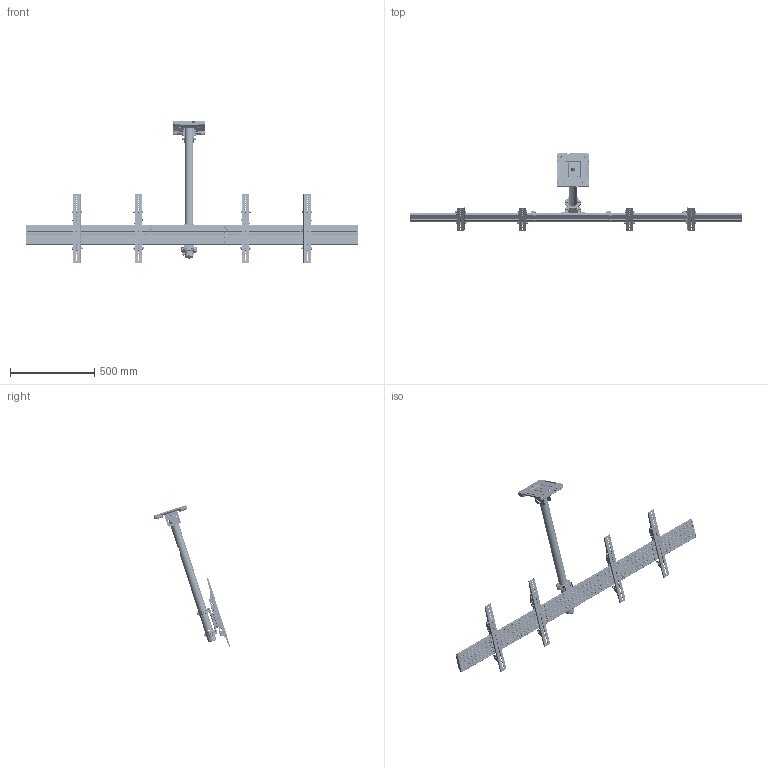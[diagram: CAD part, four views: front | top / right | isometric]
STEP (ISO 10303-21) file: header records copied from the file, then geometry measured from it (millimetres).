
FILE_DESCRIPTION (( 'STEP AP203' ), '1' );
FILE_NAME ('39662.STEP', '2019-07-27T07:14:58', ( '微软用户' ), ( 'Sky123.Org' ), 'SwSTEP 2.0', 'SolidWorks 2016', '' );
FILE_SCHEMA (( 'CONFIG_CONTROL_DESIGN' ));
Length unit declared in the file: millimetre
Products named in the file (53): 噩砃NEW酘境像郪璃; 噩砃M6-50; NEW酘境像郪璃; M6-50; 39662; HDХ啣郪璃; 筵寢傷裔; Х旋倰Х啣NEW - 2; 噩砃M6攝韓蹟譫; hexagon socket button head screws gb_GB_SOCKET_TYPE7 M8X12-N; M6攝韓蹟譫; T倰璃; 蕾奪; 嘐隅輸; 噩砃M6-15; 臏筵寢480; M6-15; 黑裔; 臏筵寢680; 蕾奪郪璃; 呿蹋傍杶2; 噩砃16-6.2-1.5; 滅聒蹟蹟佪; 16-6.2-1.5; 嘐隅郪璃 - 2; 囀鞠褒攫芛蹟佪M8-70; M8-25囀鞠褒埴翐芛; 噩砃400T____ ^T400 arm Kanto Version; 噩砃NEWT境像; 400T____ ^T400 arm Kanto Version; NEWT境像; M8攝韓蹟譫; hexagon socket button head screws gb_GB_SOCKET_TYPE7 M8X12-S; 噩砃M6-15坋趼蹟佪; 噩砃蟀諉え1-; M6-15坋趼蹟佪; 蟀諉え1-; Х啣; 16-8.2-1.5; 噩砃M6-60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
Assembly tree (176 placements, depth 4):
  39662
    嘐隅郪璃 - 2
      臏筵寢680
    NEW衵境像郪璃
      NEWT境像
      蟀諉え1-
      M6-45囀鞠褒埴翐芛  x2
      11-6-5傍杶  x2
      M6-50  x2
      M6攝韓蹟譫  x3
      M6-15
      16-6.2-1.5  x10
      400T____ ^T400 arm Kanto Version
      M6-15坋趼蹟佪
      M6-60
    NEW酘境像郪璃
      NEWT境像
      蟀諉え1-
      M6-45囀鞠褒埴翐芛  x2
      11-6-5傍杶  x2
      M6-50  x2
      M6攝韓蹟譫  x3
      M6-15
      16-6.2-1.5  x10
      400T____ ^T400 arm Kanto Version
      M6-15坋趼蹟佪
      M6-60
    hexagon socket button head screws gb_GB_SOCKET_TYPE7 M8X12-N  x4
    16-6.2-1.5  x2
    臏筵寢480  x2
    滅聒蹟蹟佪  x2
    噩砃NEW衵境像郪璃
      噩砃NEWT境像
      噩砃蟀諉え1-
      镜向M6-45内六角圆柱头  x2
      噩砃11-6-5傍杶  x2
      噩砃M6-50  x2
      噩砃M6攝韓蹟譫  x3
      噩砃M6-15
      噩砃16-6.2-1.5  x10
      噩砃400T____ ^T400 arm Kanto Version
      噩砃M6-15坋趼蹟佪
      噩砃M6-60
    噩砃NEW酘境像郪璃
      噩砃NEWT境像
      噩砃蟀諉え1-
      镜向M6-45内六角圆柱头  x2
      噩砃11-6-5傍杶  x2
      噩砃M6-50  x2
      噩砃M6攝韓蹟譫  x3
      噩砃M6-15
      噩砃16-6.2-1.5  x10
      噩砃400T____ ^T400 arm Kanto Version
      噩砃M6-15坋趼蹟佪
      噩砃M6-60
    邧芛嘐隅釱SLDASM
      Х旋倰Х啣NEW - 2
      嘐隅輸  x4
      呿蹋傍杶2  x2
      M8-25囀鞠褒埴翐芛  x4
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Bounding box: 1970 x 456.61 x 842.78 mm (x, y, z)
Volume: 2868545.4 mm3; surface area: 2649247.2 mm2
Topology: 206 solids, 210 shells, 16724 faces, 43064 edges, 27516 vertices
Faces by surface type: cylinder 5422, plane 5376, bspline 5046, cone 824, torus 56
Entity records: 326672 total; most frequent: CARTESIAN_POINT 180966, ORIENTED_EDGE 32354, DIRECTION 22643, EDGE_CURVE 16178, VERTEX_POINT 10385, AXIS2_PLACEMENT_3D 8048, EDGE_LOOP 6918, LINE 6547
